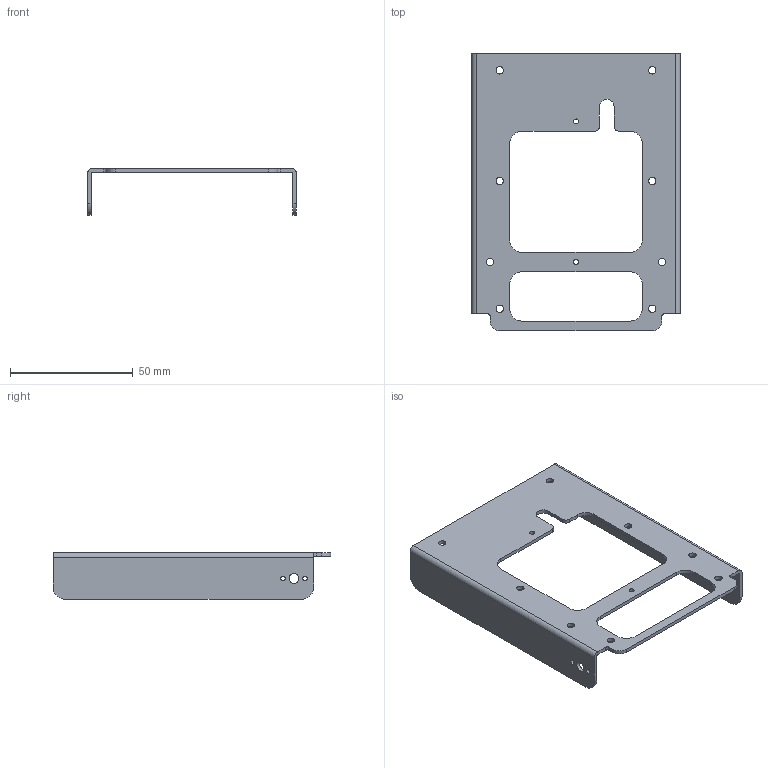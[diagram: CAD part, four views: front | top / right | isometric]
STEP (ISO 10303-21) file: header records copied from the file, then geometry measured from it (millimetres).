
FILE_DESCRIPTION(/* description */ (''),/* implementation_level */ '2;1');
FILE_NAME(/* name */ '',/* time_stamp */ '2024-10-03T23:54:23+09:00',/* author */ (''),/* organization */ (''),/* preprocessor_version */ 'ST-DEVELOPER v20',/* originating_system */ 'Autodesk Translation Framework v13.14.0.145',/* authorisation */ '');
FILE_SCHEMA (('AUTOMOTIVE_DESIGN { 1 0 10303 214 3 1 1 }'));
Length unit declared in the file: millimetre
Products named in the file (2): ベース板金.1; ベース板金
Assembly tree (1 placements, depth 2):
  ベース板金.1
    ベース板金
Bounding box: 85 x 113 x 19 mm (x, y, z)
Volume: 13799.4 mm3; surface area: 19817.6 mm2
Topology: 1 solids, 1 shells, 64 faces, 186 edges, 124 vertices
Faces by surface type: cylinder 39, plane 25
Full cylindrical faces by diameter (mm): 1.8 x4, 2 x2, 3 x8, 4 x2
Entity records: 2273 total; most frequent: DIRECTION 398, CARTESIAN_POINT 377, ORIENTED_EDGE 372, EDGE_CURVE 186, AXIS2_PLACEMENT_3D 145, VERTEX_POINT 124, LINE 108, VECTOR 108
